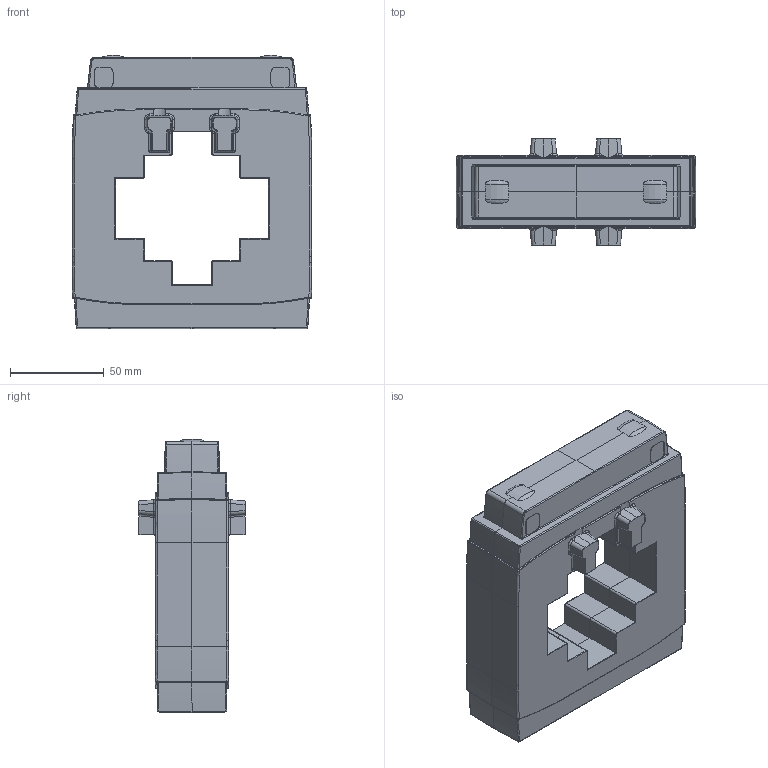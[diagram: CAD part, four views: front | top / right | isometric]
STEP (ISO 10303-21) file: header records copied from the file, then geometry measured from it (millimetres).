
FILE_DESCRIPTION(/* description */ (''),/* implementation_level */ '2;1');
FILE_NAME(/* name */ 'ENT.A80.stp',/* time_stamp */ '2021-03-18T11:51:45+03:00',/* author */ (''),/* organization */ (''),/* preprocessor_version */ 'ST-DEVELOPER v16',/* originating_system */ 'SIEMENS PLM Software NX 11.0',/* authorisation */ '');
FILE_SCHEMA (('AUTOMOTIVE_DESIGN { 1 0 10303 214 3 1 1 1 }'));
Length unit declared in the file: millimetre
Products named in the file (1): ENT.A80
Bounding box: 128 x 57 x 145.72 mm (x, y, z)
Volume: 513115 mm3; surface area: 61317 mm2
Topology: 1 solids, 1 shells, 535 faces, 1343 edges, 796 vertices
Faces by surface type: cylinder 204, plane 147, bspline 108, torus 28, sphere 24, cone 24
Entity records: 17575 total; most frequent: CARTESIAN_POINT 5576, ORIENTED_EDGE 2662, DIRECTION 2378, EDGE_CURVE 1331, AXIS2_PLACEMENT_3D 914, VERTEX_POINT 796, LINE 550, VECTOR 550
